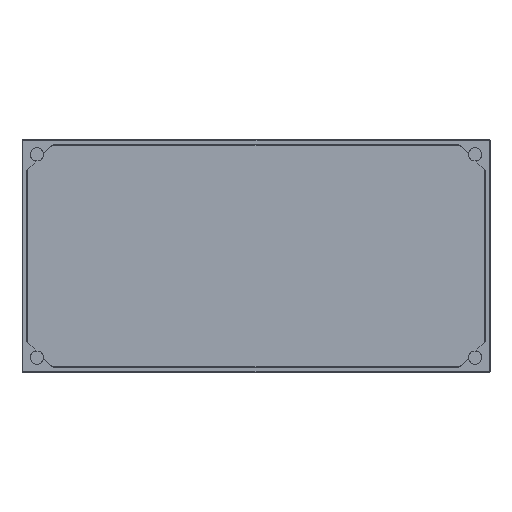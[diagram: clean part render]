
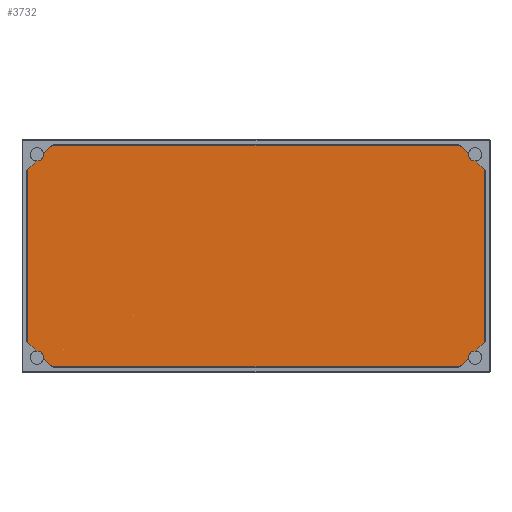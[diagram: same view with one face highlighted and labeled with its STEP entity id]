
A CAD part, front view. The second image highlights one B-rep face of the part: STEP entity #3732.
In plain terms, the highlighted planar face has unit normal (0, -1, 0).
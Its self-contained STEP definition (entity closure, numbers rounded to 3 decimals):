
#228=PLANE('',#4181);
#449=FACE_OUTER_BOUND('',#687,.T.);
#687=EDGE_LOOP('',(#3380,#3381,#3382,#3383));
#1033=LINE('',#6331,#1397);
#1035=LINE('',#6348,#1399);
#1039=LINE('',#6361,#1403);
#1041=LINE('',#6364,#1405);
#1397=VECTOR('',#5247,10.);
#1399=VECTOR('',#5267,10.);
#1403=VECTOR('',#5283,10.);
#1405=VECTOR('',#5287,10.);
#1800=VERTEX_POINT('',#6312);
#1806=VERTEX_POINT('',#6326);
#1810=VERTEX_POINT('',#6340);
#1815=VERTEX_POINT('',#6356);
#2312=EDGE_CURVE('',#1800,#1806,#1033,.T.);
#2320=EDGE_CURVE('',#1810,#1800,#1035,.T.);
#2327=EDGE_CURVE('',#1806,#1815,#1039,.T.);
#2329=EDGE_CURVE('',#1815,#1810,#1041,.T.);
#3380=ORIENTED_EDGE('',*,*,#2312,.F.);
#3381=ORIENTED_EDGE('',*,*,#2320,.F.);
#3382=ORIENTED_EDGE('',*,*,#2329,.F.);
#3383=ORIENTED_EDGE('',*,*,#2327,.F.);
#3732=ADVANCED_FACE('',(#449),#228,.F.);
#4181=AXIS2_PLACEMENT_3D('',#6387,#5318,#5319);
#5247=DIRECTION('',(0.,0.,-1.));
#5267=DIRECTION('',(1.,0.,0.));
#5283=DIRECTION('',(-1.,0.,0.));
#5287=DIRECTION('',(0.,0.,1.));
#5318=DIRECTION('center_axis',(0.,1.,0.));
#5319=DIRECTION('ref_axis',(0.,0.,1.));
#6312=CARTESIAN_POINT('',(490.,0.,238.));
#6326=CARTESIAN_POINT('',(490.,0.,-238.));
#6331=CARTESIAN_POINT('',(490.,0.,120.));
#6340=CARTESIAN_POINT('',(-490.,0.,238.));
#6348=CARTESIAN_POINT('',(-246.,0.,238.));
#6356=CARTESIAN_POINT('',(-490.,0.,-238.));
#6361=CARTESIAN_POINT('',(246.,0.,-238.));
#6364=CARTESIAN_POINT('',(-490.,0.,-120.));
#6387=CARTESIAN_POINT('Origin',(0.,0.,0.));
